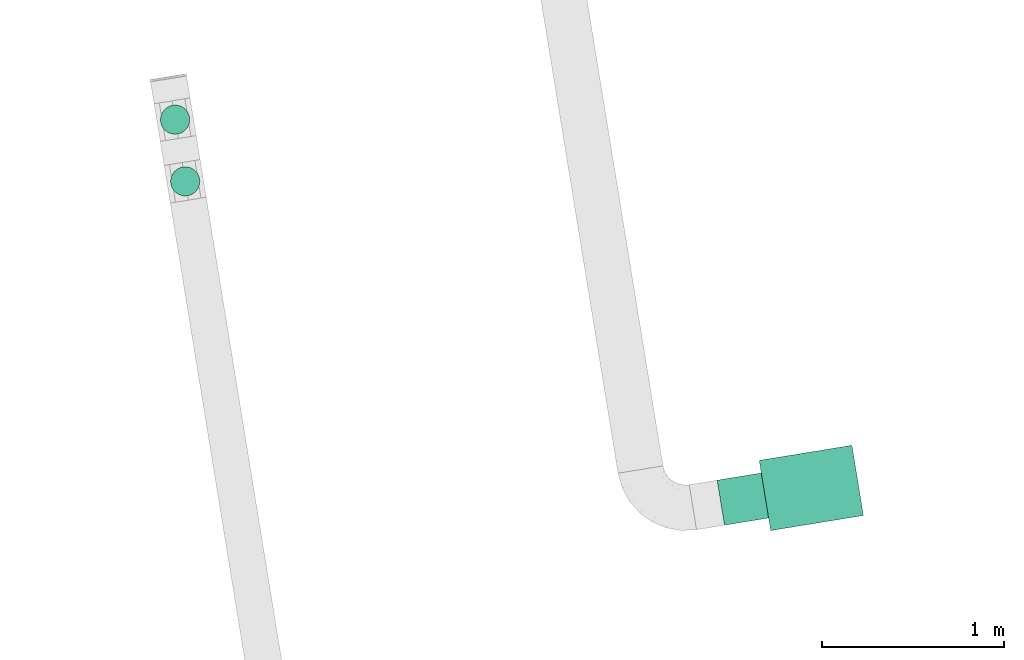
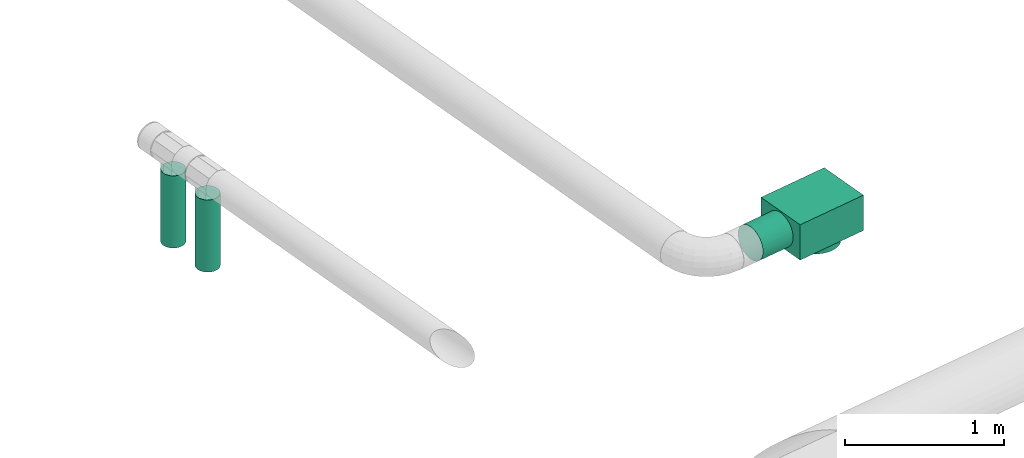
# One storey, part 13 of 19: 2 flow segments, 1 flow terminal.
"""IFC2X3 building model written with IfcOpenShell, lengths in millimetres."""

from ifc_helpers import new_model, entity, si_unit, converted_unit, derived_unit, direction, frame, origin, origin_with_axes, place, context, subcontext, project, spatial, faceted_brep, material, type_object, element, save


model = new_model("IFC2X3")

# Units and contexts
model_context = context("Model", 3, precision=0.01, world=origin(), true_north=direction((6.12323399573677e-17, 1.0)))
plan_context = context("Plan", 3, precision=1e-05, world=origin_with_axes())
body_context = subcontext(model_context, "Body", "Model", "MODEL_VIEW")
ifc_project = project(units=[converted_unit("PLANEANGLEUNIT", "DEGREE", entity("IfcPositiveLengthMeasure", 0.0174532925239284), si_unit("PLANEANGLEUNIT", "RADIAN"), dimensions=[0, 0, 0, 0, 0, 0, 0]), si_unit("AREAUNIT", "SQUARE_METRE"), si_unit("LENGTHUNIT", "METRE", prefix="MILLI"), si_unit("MASSUNIT", "GRAM", prefix="KILO"), si_unit("POWERUNIT", "WATT"), si_unit("PRESSUREUNIT", "PASCAL", prefix="KILO"), si_unit("FORCEUNIT", "NEWTON", prefix="KILO"), si_unit("ELECTRICVOLTAGEUNIT", "VOLT"), si_unit("ELECTRICCURRENTUNIT", "AMPERE"), si_unit("THERMODYNAMICTEMPERATUREUNIT", "DEGREE_CELSIUS"), si_unit("TIMEUNIT", "SECOND"), si_unit("VOLUMEUNIT", "CUBIC_METRE"), derived_unit("LINEARVELOCITYUNIT", [(si_unit("LENGTHUNIT", "METRE"), 1), (si_unit("TIMEUNIT", "SECOND"), -1)]), derived_unit("VOLUMETRICFLOWRATEUNIT", [(si_unit("VOLUMEUNIT", "CUBIC_METRE"), 1), (si_unit("TIMEUNIT", "SECOND"), -1)]), derived_unit("THERMALTRANSMITTANCEUNIT", [(si_unit("POWERUNIT", "WATT"), 1), (si_unit("THERMODYNAMICTEMPERATUREUNIT", "KELVIN"), -1), (si_unit("AREAUNIT", "SQUARE_METRE"), -1)]), derived_unit("SOUNDPRESSUREUNIT", [(si_unit("PRESSUREUNIT", "PASCAL"), 1)])], contexts=[model_context, plan_context])

# Site, building, storey
site_placement = place(None, frame((5.09380697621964e-08, 5.80416781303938e-08, 0.0), z_axis=(0.0, 0.0, 1.0), x_axis=(-0.160806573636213, 0.986985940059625, 0.0)))
site = spatial("IfcSite", under=ifc_project, at=site_placement, Name="Default", CompositionType="ELEMENT")
building_placement = place(site_placement, frame((0.0, 0.0, 0.0), z_axis=(0.0, 0.0, 1.0), x_axis=(1.0, -2.77555756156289e-17, 0.0)))
building = spatial("IfcBuilding", under=site, at=building_placement, Name="Bygning (endres i Project Information)", CompositionType="ELEMENT")
storey_placement = place(building_placement, frame((0.0, 0.0, 51360.0000000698), z_axis=(0.0, 0.0, 1.0), x_axis=(1.0, -2.77555756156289e-17, 0.0)))
storey = spatial("IfcBuildingStorey", under=building, at=storey_placement, Name="H01-Nivå D+0,36", CompositionType="ELEMENT", Elevation=51360.0000000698)

# Flow terminal
ifc_material = material(Name="3601.001 Tilluft")
air_terminal_type = type_object("IfcAirTerminalType", Name="Orion-LOV-TA+Luna:Orion-LOV-TA-315+Luna-250-315", PredefinedType="NOTDEFINED", material=ifc_material)
flow_terminal_placement = place(storey_placement, frame((997795.043332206, -394278.28836624, 2700.0), z_axis=(0.0, 0.0, 1.0), x_axis=(-2.77555756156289e-17, -1.0, 0.0)))
element("IfcFlowTerminal", 1, at=flow_terminal_placement, inside=storey, type_object=air_terminal_type, Name="Orion-LOV-TA+Luna:Orion-LOV-TA-315+Luna-250-315", ObjectType="Orion-LOV-TA+Luna:Orion-LOV-TA-315+Luna-250-315", context=body_context, shape_type="Brep", body=[
    faceted_brep([(-287.0, -195.0, 514.0), (-287.0, -195.0, 786.0), (228.0, -195.0, 786.0), (228.0, -195.0, 514.0), (228.0, 195.0, 786.0), (228.0, 195.0, 514.0), (-287.0, 195.0, 786.0), (-287.0, 195.0, 514.0)], [[[0, 1, 2, 3]], [[3, 2, 4, 5]], [[5, 4, 6, 7]], [[7, 6, 1, 0]], [[0, 3, 5, 7]], [[2, 1, 6, 4]]], orient=[[False], [False], [False], [False], [False], [False]]),
    faceted_brep([(-532.0, -21.7060222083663, 526.899030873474), (-287.0, -21.7060222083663, 526.899030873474), (-287.0, -8.45989944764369e-15, 525.0), (-532.0, -8.45989944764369e-15, 525.0), (-287.0, 21.7060222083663, 526.899030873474), (-532.0, 21.7060222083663, 526.899030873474), (-287.0, 42.7525179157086, 532.538422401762), (-532.0, 42.7525179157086, 532.538422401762), (-287.0, 62.5, 541.746824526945), (-532.0, 62.5, 541.746824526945), (-287.0, 80.3484512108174, 554.244444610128), (-532.0, 80.3484512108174, 554.244444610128), (-287.0, 95.7555553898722, 569.651548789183), (-532.0, 95.7555553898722, 569.651548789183), (-287.0, 108.253175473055, 587.5), (-532.0, 108.253175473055, 587.5), (-287.0, 117.461577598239, 607.247482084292), (-532.0, 117.461577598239, 607.247482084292), (-287.0, 123.100969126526, 628.293977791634), (-532.0, 123.100969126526, 628.293977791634), (-287.0, 125.0, 650.0), (-532.0, 125.0, 650.0), (-287.0, 123.100969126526, 671.706022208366), (-532.0, 123.100969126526, 671.706022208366), (-287.0, 117.461577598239, 692.752517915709), (-532.0, 117.461577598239, 692.752517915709), (-287.0, 108.253175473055, 712.5), (-532.0, 108.253175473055, 712.5), (-287.0, 95.7555553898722, 730.348451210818), (-532.0, 95.7555553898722, 730.348451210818), (-287.0, 80.3484512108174, 745.755555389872), (-532.0, 80.3484512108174, 745.755555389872), (-287.0, 62.5, 758.253175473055), (-532.0, 62.5, 758.253175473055), (-287.0, 42.7525179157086, 767.461577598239), (-532.0, 42.7525179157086, 767.461577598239), (-287.0, 21.7060222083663, 773.100969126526), (-532.0, 21.7060222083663, 773.100969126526), (-287.0, 6.84818554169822e-15, 775.0), (-532.0, 6.84818554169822e-15, 775.0), (-287.0, -21.7060222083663, 773.100969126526), (-532.0, -21.7060222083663, 773.100969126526), (-287.0, -42.7525179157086, 767.461577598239), (-532.0, -42.7525179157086, 767.461577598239), (-287.0, -62.5, 758.253175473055), (-532.0, -62.5, 758.253175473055), (-287.0, -80.3484512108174, 745.755555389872), (-532.0, -80.3484512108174, 745.755555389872), (-287.0, -95.7555553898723, 730.348451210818), (-532.0, -95.7555553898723, 730.348451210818), (-287.0, -108.253175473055, 712.5), (-532.0, -108.253175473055, 712.5), (-287.0, -117.461577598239, 692.752517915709), (-532.0, -117.461577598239, 692.752517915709), (-287.0, -123.100969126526, 671.706022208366), (-532.0, -123.100969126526, 671.706022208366), (-287.0, -125.0, 650.0), (-532.0, -125.0, 650.0), (-287.0, -123.100969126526, 628.293977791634), (-532.0, -123.100969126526, 628.293977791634), (-287.0, -117.461577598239, 607.247482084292), (-532.0, -117.461577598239, 607.247482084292), (-287.0, -108.253175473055, 587.5), (-532.0, -108.253175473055, 587.5), (-287.0, -95.7555553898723, 569.651548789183), (-532.0, -95.7555553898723, 569.651548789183), (-287.0, -80.3484512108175, 554.244444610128), (-532.0, -80.3484512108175, 554.244444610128), (-287.0, -62.5000000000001, 541.746824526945), (-532.0, -62.5000000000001, 541.746824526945), (-287.0, -42.7525179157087, 532.538422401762), (-532.0, -42.7525179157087, 532.538422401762)], [[[0, 1, 2, 3]], [[3, 2, 4, 5]], [[5, 4, 6, 7]], [[7, 6, 8, 9]], [[9, 8, 10, 11]], [[11, 10, 12, 13]], [[13, 12, 14, 15]], [[15, 14, 16, 17]], [[17, 16, 18, 19]], [[19, 18, 20, 21]], [[21, 20, 22, 23]], [[23, 22, 24, 25]], [[25, 24, 26, 27]], [[27, 26, 28, 29]], [[29, 28, 30, 31]], [[31, 30, 32, 33]], [[33, 32, 34, 35]], [[35, 34, 36, 37]], [[37, 36, 38, 39]], [[39, 38, 40, 41]], [[41, 40, 42, 43]], [[43, 42, 44, 45]], [[45, 44, 46, 47]], [[47, 46, 48, 49]], [[49, 48, 50, 51]], [[51, 50, 52, 53]], [[53, 52, 54, 55]], [[55, 54, 56, 57]], [[57, 56, 58, 59]], [[59, 58, 60, 61]], [[61, 60, 62, 63]], [[63, 62, 64, 65]], [[65, 64, 66, 67]], [[67, 66, 68, 69]], [[69, 68, 70, 71]], [[71, 70, 1, 0]], [[0, 3, 5, 7, 9, 11, 13, 15, 17, 19, 21, 23, 25, 27, 29, 31, 33, 35, 37, 39, 41, 43, 45, 47, 49, 51, 53, 55, 57, 59, 61, 63, 65, 67, 69, 71]], [[2, 1, 70, 68, 66, 64, 62, 60, 58, 56, 54, 52, 50, 48, 46, 44, 42, 40, 38, 36, 34, 32, 30, 28, 26, 24, 22, 20, 18, 16, 14, 12, 10, 8, 6, 4]]], orient=[[False], [False], [False], [False], [False], [False], [False], [False], [False], [False], [False], [False], [False], [False], [False], [False], [False], [False], [False], [False], [False], [False], [False], [False], [False], [False], [False], [False], [False], [False], [False], [False], [False], [False], [False], [False], [False], [False]]),
    faceted_brep([(0.0, 158.5, 439.999999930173), (27.5232361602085, 156.092028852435, 439.999999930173), (27.5232361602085, 156.092028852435, 514.0), (0.0, 158.5, 514.0), (-27.5232361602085, 156.092028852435, 439.999999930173), (-27.5232361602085, 156.092028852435, 514.0), (-54.2101927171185, 148.941280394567, 439.999999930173), (-54.2101927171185, 148.941280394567, 514.0), (-79.25, 137.265026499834, 439.999999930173), (-79.25, 137.265026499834, 514.0), (-101.881836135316, 121.418044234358, 439.999999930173), (-101.881836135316, 121.418044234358, 514.0), (-121.418044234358, 101.881836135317, 439.999999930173), (-121.418044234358, 101.881836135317, 514.0), (-137.265026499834, 79.2500000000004, 439.999999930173), (-137.265026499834, 79.2500000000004, 514.0), (-148.941280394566, 54.2101927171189, 439.999999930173), (-148.941280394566, 54.2101927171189, 514.0), (-156.092028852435, 27.5232361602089, 439.999999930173), (-156.092028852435, 27.5232361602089, 514.0), (-158.5, 4.2232883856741e-13, 439.999999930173), (-158.5, 4.2232883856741e-13, 514.0), (-156.092028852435, -27.523236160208, 439.999999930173), (-156.092028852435, -27.523236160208, 514.0), (-148.941280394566, -54.2101927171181, 439.999999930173), (-148.941280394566, -54.2101927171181, 514.0), (-137.265026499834, -79.2499999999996, 439.999999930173), (-137.265026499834, -79.2499999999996, 514.0), (-121.418044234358, -101.881836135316, 439.999999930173), (-121.418044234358, -101.881836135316, 514.0), (-101.881836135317, -121.418044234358, 439.999999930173), (-101.881836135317, -121.418044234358, 514.0), (-79.25, -137.265026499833, 439.999999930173), (-79.25, -137.265026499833, 514.0), (-54.2101927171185, -148.941280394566, 439.999999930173), (-54.2101927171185, -148.941280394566, 514.0), (-27.5232361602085, -156.092028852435, 439.999999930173), (-27.5232361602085, -156.092028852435, 514.0), (-1.94106517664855e-14, -158.5, 439.999999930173), (-1.94106517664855e-14, -158.5, 514.0), (27.5232361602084, -156.092028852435, 439.999999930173), (27.5232361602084, -156.092028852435, 514.0), (54.2101927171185, -148.941280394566, 439.999999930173), (54.2101927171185, -148.941280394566, 514.0), (79.25, -137.265026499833, 439.999999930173), (79.25, -137.265026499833, 514.0), (101.881836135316, -121.418044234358, 439.999999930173), (101.881836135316, -121.418044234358, 514.0), (121.418044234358, -101.881836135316, 439.999999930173), (121.418044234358, -101.881836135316, 514.0), (137.265026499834, -79.2499999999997, 439.999999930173), (137.265026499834, -79.2499999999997, 514.0), (148.941280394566, -54.2101927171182, 439.999999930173), (148.941280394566, -54.2101927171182, 514.0), (156.092028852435, -27.5232361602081, 439.999999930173), (156.092028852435, -27.523236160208, 514.0), (158.5, 3.83507535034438e-13, 439.999999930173), (158.5, 3.83507535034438e-13, 514.0), (156.092028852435, 27.5232361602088, 439.999999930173), (156.092028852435, 27.5232361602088, 514.0), (148.941280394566, 54.2101927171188, 439.999999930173), (148.941280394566, 54.2101927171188, 514.0), (137.265026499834, 79.2500000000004, 439.999999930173), (137.265026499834, 79.2500000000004, 514.0), (121.418044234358, 101.881836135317, 439.999999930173), (121.418044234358, 101.881836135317, 514.0), (101.881836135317, 121.418044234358, 439.999999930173), (101.881836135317, 121.418044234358, 514.0), (79.2500000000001, 137.265026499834, 439.999999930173), (79.2500000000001, 137.265026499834, 514.0), (54.2101927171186, 148.941280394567, 439.999999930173), (54.2101927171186, 148.941280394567, 514.0)], [[[0, 1, 2, 3]], [[4, 0, 3, 5]], [[6, 4, 5, 7]], [[8, 6, 7, 9]], [[10, 8, 9, 11]], [[12, 10, 11, 13]], [[14, 12, 13, 15]], [[16, 14, 15, 17]], [[18, 16, 17, 19]], [[20, 18, 19, 21]], [[22, 20, 21, 23]], [[24, 22, 23, 25]], [[26, 24, 25, 27]], [[28, 26, 27, 29]], [[30, 28, 29, 31]], [[32, 30, 31, 33]], [[34, 32, 33, 35]], [[36, 34, 35, 37]], [[38, 36, 37, 39]], [[40, 38, 39, 41]], [[42, 40, 41, 43]], [[44, 42, 43, 45]], [[46, 44, 45, 47]], [[48, 46, 47, 49]], [[50, 48, 49, 51]], [[52, 50, 51, 53]], [[54, 52, 53, 55]], [[56, 54, 55, 57]], [[58, 56, 57, 59]], [[60, 58, 59, 61]], [[62, 60, 61, 63]], [[64, 62, 63, 65]], [[66, 64, 65, 67]], [[68, 66, 67, 69]], [[70, 68, 69, 71]], [[1, 70, 71, 2]], [[3, 2, 71, 69, 67, 65, 63, 61, 59, 57, 55, 53, 51, 49, 47, 45, 43, 41, 39, 37, 35, 33, 31, 29, 27, 25, 23, 21, 19, 17, 15, 13, 11, 9, 7, 5]], [[4, 6, 8, 10, 12, 14, 16, 18, 20, 22, 24, 26, 28, 30, 32, 34, 36, 38, 40, 42, 44, 46, 48, 50, 52, 54, 56, 58, 60, 62, 64, 66, 68, 70, 1, 0]]], orient=[[False], [False], [False], [False], [False], [False], [False], [False], [False], [False], [False], [False], [False], [False], [False], [False], [False], [False], [False], [False], [False], [False], [False], [False], [False], [False], [False], [False], [False], [False], [False], [False], [False], [False], [False], [False], [False], [False]]),
])

# Flow segments
duct_segment_type = type_object("IfcDuctSegmentType", Name="Round Duct:Sirkulær kanal", PredefinedType="NOTDEFINED", material=ifc_material)
flow_segment_1_placement = place(storey_placement, frame((0.0, 0.0, 0.0), z_axis=(0.0, 0.0, 1.0), x_axis=(1.0, -2.77555756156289e-17, 0.0)))
element("IfcFlowSegment", 2, at=flow_segment_1_placement, inside=storey, type_object=duct_segment_type, Name="Round Duct:Sirkulær kanal", ObjectType="Round Duct:Sirkulær kanal", context=body_context, shape_type="Brep", body=[
    faceted_brep([(1000004.89913365, -391212.731779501, 3139.99999993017), (999991.007279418, -391211.51639974, 3139.99999993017), (999991.007279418, -391211.51639974, 3695.00000015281), (1000004.89913365, -391212.731779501, 3695.00000015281), (1000018.79098789, -391211.51639974, 3139.99999993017), (1000018.79098789, -391211.51639974, 3695.00000015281), (1000032.26074516, -391207.907189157, 3139.99999993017), (1000032.26074516, -391207.907189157, 3695.00000015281), (1000044.89913371, -391202.013811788, 3139.99999993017), (1000044.89913371, -391202.013811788, 3695.00000015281), (1000056.32214251, -391194.015334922, 3139.99999993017), (1000056.32214251, -391194.015334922, 3695.00000015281), (1000066.1826892, -391184.154788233, 3139.99999993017), (1000066.1826892, -391184.154788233, 3695.00000015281), (1000074.18116606, -391172.73177944, 3139.99999993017), (1000074.18116606, -391172.73177944, 3695.00000015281), (1000080.07454343, -391160.093390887, 3139.99999993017), (1000080.07454343, -391160.093390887, 3695.00000015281), (1000083.68375401, -391146.623633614, 3139.99999993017), (1000083.68375401, -391146.623633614, 3695.00000015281), (1000084.89913377, -391132.73177938, 3139.99999993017), (1000084.89913377, -391132.73177938, 3695.00000015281), (1000083.68375401, -391118.839925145, 3139.99999993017), (1000083.68375401, -391118.839925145, 3695.00000015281), (1000080.07454343, -391105.370167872, 3139.99999993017), (1000080.07454343, -391105.370167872, 3695.00000015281), (1000074.18116606, -391092.731779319, 3139.99999993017), (1000074.18116606, -391092.731779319, 3695.00000015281), (1000066.1826892, -391081.308770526, 3139.99999993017), (1000066.1826892, -391081.308770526, 3695.00000015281), (1000056.32214251, -391071.448223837, 3139.99999993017), (1000056.32214251, -391071.448223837, 3695.00000015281), (1000044.89913371, -391063.449746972, 3139.99999993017), (1000044.89913371, -391063.449746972, 3695.00000015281), (1000032.26074516, -391057.556369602, 3139.99999993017), (1000032.26074516, -391057.556369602, 3695.00000015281), (1000018.79098789, -391053.947159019, 3139.99999993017), (1000018.79098789, -391053.947159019, 3695.00000015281), (1000004.89913365, -391052.731779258, 3139.99999993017), (1000004.89913365, -391052.731779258, 3695.00000015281), (999991.007279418, -391053.947159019, 3139.99999993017), (999991.007279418, -391053.947159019, 3695.00000015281), (999977.537522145, -391057.556369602, 3139.99999993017), (999977.537522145, -391057.556369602, 3695.00000015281), (999964.899133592, -391063.449746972, 3139.99999993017), (999964.899133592, -391063.449746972, 3695.00000015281), (999953.4761248, -391071.448223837, 3139.99999993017), (999953.4761248, -391071.448223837, 3695.00000015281), (999943.61557811, -391081.308770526, 3139.99999993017), (999943.61557811, -391081.308770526, 3695.00000015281), (999935.617101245, -391092.731779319, 3139.99999993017), (999935.617101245, -391092.731779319, 3695.00000015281), (999929.723723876, -391105.370167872, 3139.99999993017), (999929.723723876, -391105.370167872, 3695.00000015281), (999926.114513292, -391118.839925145, 3139.99999993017), (999926.114513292, -391118.839925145, 3695.00000015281), (999924.899133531, -391132.73177938, 3139.99999993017), (999924.899133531, -391132.73177938, 3695.00000015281), (999926.114513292, -391146.623633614, 3139.99999993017), (999926.114513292, -391146.623633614, 3695.00000015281), (999929.723723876, -391160.093390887, 3139.99999993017), (999929.723723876, -391160.093390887, 3695.00000015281), (999935.617101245, -391172.73177944, 3139.99999993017), (999935.617101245, -391172.73177944, 3695.00000015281), (999943.61557811, -391184.154788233, 3139.99999993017), (999943.61557811, -391184.154788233, 3695.00000015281), (999953.4761248, -391194.015334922, 3139.99999993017), (999953.4761248, -391194.015334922, 3695.00000015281), (999964.899133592, -391202.013811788, 3139.99999993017), (999964.899133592, -391202.013811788, 3695.00000015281), (999977.537522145, -391207.907189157, 3139.99999993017), (999977.537522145, -391207.907189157, 3695.00000015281)], [[[0, 1, 2, 3]], [[4, 0, 3, 5]], [[6, 4, 5, 7]], [[8, 6, 7, 9]], [[10, 8, 9, 11]], [[12, 10, 11, 13]], [[14, 12, 13, 15]], [[16, 14, 15, 17]], [[18, 16, 17, 19]], [[20, 18, 19, 21]], [[22, 20, 21, 23]], [[24, 22, 23, 25]], [[26, 24, 25, 27]], [[28, 26, 27, 29]], [[30, 28, 29, 31]], [[32, 30, 31, 33]], [[34, 32, 33, 35]], [[36, 34, 35, 37]], [[38, 36, 37, 39]], [[40, 38, 39, 41]], [[42, 40, 41, 43]], [[44, 42, 43, 45]], [[46, 44, 45, 47]], [[48, 46, 47, 49]], [[50, 48, 49, 51]], [[52, 50, 51, 53]], [[54, 52, 53, 55]], [[56, 54, 55, 57]], [[58, 56, 57, 59]], [[60, 58, 59, 61]], [[62, 60, 61, 63]], [[64, 62, 63, 65]], [[66, 64, 65, 67]], [[68, 66, 67, 69]], [[70, 68, 69, 71]], [[1, 70, 71, 2]], [[3, 2, 71, 69, 67, 65, 63, 61, 59, 57, 55, 53, 51, 49, 47, 45, 43, 41, 39, 37, 35, 33, 31, 29, 27, 25, 23, 21, 19, 17, 15, 13, 11, 9, 7, 5]], [[4, 6, 8, 10, 12, 14, 16, 18, 20, 22, 24, 26, 28, 30, 32, 34, 36, 38, 40, 42, 44, 46, 48, 50, 52, 54, 56, 58, 60, 62, 64, 66, 68, 70, 1, 0]]], orient=[[False], [False], [False], [False], [False], [False], [False], [False], [False], [False], [False], [False], [False], [False], [False], [False], [False], [False], [False], [False], [False], [False], [False], [False], [False], [False], [False], [False], [False], [False], [False], [False], [False], [False], [False], [False], [False], [False]]),
])
flow_segment_2_placement = place(storey_placement, frame((0.0, 0.0, 0.0), z_axis=(0.0, 0.0, 1.0), x_axis=(1.0, -2.77555756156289e-17, 0.0)))
element("IfcFlowSegment", 3, at=flow_segment_2_placement, inside=storey, type_object=duct_segment_type, Name="Round Duct:Sirkulær kanal", ObjectType="Round Duct:Sirkulær kanal", context=body_context, shape_type="Brep", body=[
    faceted_brep([(1000347.1737039, -391212.731779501, 3139.99999993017), (1000333.28184966, -391211.51639974, 3139.99999993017), (1000333.28184966, -391211.51639974, 3695.00000015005), (1000347.1737039, -391212.731779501, 3695.00000015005), (1000361.06555813, -391211.51639974, 3139.99999993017), (1000361.06555813, -391211.51639974, 3695.00000015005), (1000374.53531541, -391207.907189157, 3139.99999993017), (1000374.53531541, -391207.907189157, 3695.00000015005), (1000387.17370396, -391202.013811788, 3139.99999993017), (1000387.17370396, -391202.013811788, 3695.00000015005), (1000398.59671275, -391194.015334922, 3139.99999993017), (1000398.59671275, -391194.015334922, 3695.00000015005), (1000408.45725944, -391184.154788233, 3139.99999993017), (1000408.45725944, -391184.154788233, 3695.00000015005), (1000416.45573631, -391172.73177944, 3139.99999993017), (1000416.45573631, -391172.73177944, 3695.00000015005), (1000422.34911368, -391160.093390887, 3139.99999993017), (1000422.34911368, -391160.093390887, 3695.00000015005), (1000425.95832426, -391146.623633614, 3139.99999993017), (1000425.95832426, -391146.623633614, 3695.00000015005), (1000427.17370402, -391132.73177938, 3139.99999993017), (1000427.17370402, -391132.73177938, 3695.00000015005), (1000425.95832426, -391118.839925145, 3139.99999993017), (1000425.95832426, -391118.839925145, 3695.00000015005), (1000422.34911368, -391105.370167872, 3139.99999993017), (1000422.34911368, -391105.370167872, 3695.00000015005), (1000416.45573631, -391092.731779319, 3139.99999993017), (1000416.45573631, -391092.731779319, 3695.00000015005), (1000408.45725944, -391081.308770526, 3139.99999993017), (1000408.45725944, -391081.308770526, 3695.00000015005), (1000398.59671275, -391071.448223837, 3139.99999993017), (1000398.59671275, -391071.448223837, 3695.00000015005), (1000387.17370396, -391063.449746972, 3139.99999993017), (1000387.17370396, -391063.449746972, 3695.00000015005), (1000374.53531541, -391057.556369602, 3139.99999993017), (1000374.53531541, -391057.556369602, 3695.00000015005), (1000361.06555813, -391053.947159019, 3139.99999993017), (1000361.06555813, -391053.947159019, 3695.00000015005), (1000347.1737039, -391052.731779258, 3139.99999993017), (1000347.1737039, -391052.731779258, 3695.00000015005), (1000333.28184966, -391053.947159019, 3139.99999993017), (1000333.28184966, -391053.947159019, 3695.00000015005), (1000319.81209239, -391057.556369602, 3139.99999993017), (1000319.81209239, -391057.556369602, 3695.00000015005), (1000307.17370384, -391063.449746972, 3139.99999993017), (1000307.17370384, -391063.449746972, 3695.00000015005), (1000295.75069505, -391071.448223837, 3139.99999993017), (1000295.75069505, -391071.448223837, 3695.00000015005), (1000285.89014836, -391081.308770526, 3139.99999993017), (1000285.89014836, -391081.308770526, 3695.00000015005), (1000277.89167149, -391092.731779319, 3139.99999993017), (1000277.89167149, -391092.731779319, 3695.00000015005), (1000271.99829412, -391105.370167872, 3139.99999993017), (1000271.99829412, -391105.370167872, 3695.00000015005), (1000268.38908354, -391118.839925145, 3139.99999993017), (1000268.38908354, -391118.839925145, 3695.00000015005), (1000267.17370378, -391132.73177938, 3139.99999993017), (1000267.17370378, -391132.73177938, 3695.00000015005), (1000268.38908354, -391146.623633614, 3139.99999993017), (1000268.38908354, -391146.623633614, 3695.00000015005), (1000271.99829412, -391160.093390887, 3139.99999993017), (1000271.99829412, -391160.093390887, 3695.00000015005), (1000277.89167149, -391172.73177944, 3139.99999993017), (1000277.89167149, -391172.73177944, 3695.00000015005), (1000285.89014836, -391184.154788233, 3139.99999993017), (1000285.89014836, -391184.154788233, 3695.00000015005), (1000295.75069505, -391194.015334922, 3139.99999993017), (1000295.75069505, -391194.015334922, 3695.00000015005), (1000307.17370384, -391202.013811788, 3139.99999993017), (1000307.17370384, -391202.013811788, 3695.00000015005), (1000319.81209239, -391207.907189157, 3139.99999993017), (1000319.81209239, -391207.907189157, 3695.00000015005)], [[[0, 1, 2, 3]], [[4, 0, 3, 5]], [[6, 4, 5, 7]], [[8, 6, 7, 9]], [[10, 8, 9, 11]], [[12, 10, 11, 13]], [[14, 12, 13, 15]], [[16, 14, 15, 17]], [[18, 16, 17, 19]], [[20, 18, 19, 21]], [[22, 20, 21, 23]], [[24, 22, 23, 25]], [[26, 24, 25, 27]], [[28, 26, 27, 29]], [[30, 28, 29, 31]], [[32, 30, 31, 33]], [[34, 32, 33, 35]], [[36, 34, 35, 37]], [[38, 36, 37, 39]], [[40, 38, 39, 41]], [[42, 40, 41, 43]], [[44, 42, 43, 45]], [[46, 44, 45, 47]], [[48, 46, 47, 49]], [[50, 48, 49, 51]], [[52, 50, 51, 53]], [[54, 52, 53, 55]], [[56, 54, 55, 57]], [[58, 56, 57, 59]], [[60, 58, 59, 61]], [[62, 60, 61, 63]], [[64, 62, 63, 65]], [[66, 64, 65, 67]], [[68, 66, 67, 69]], [[70, 68, 69, 71]], [[1, 70, 71, 2]], [[3, 2, 71, 69, 67, 65, 63, 61, 59, 57, 55, 53, 51, 49, 47, 45, 43, 41, 39, 37, 35, 33, 31, 29, 27, 25, 23, 21, 19, 17, 15, 13, 11, 9, 7, 5]], [[4, 6, 8, 10, 12, 14, 16, 18, 20, 22, 24, 26, 28, 30, 32, 34, 36, 38, 40, 42, 44, 46, 48, 50, 52, 54, 56, 58, 60, 62, 64, 66, 68, 70, 1, 0]]], orient=[[False], [False], [False], [False], [False], [False], [False], [False], [False], [False], [False], [False], [False], [False], [False], [False], [False], [False], [False], [False], [False], [False], [False], [False], [False], [False], [False], [False], [False], [False], [False], [False], [False], [False], [False], [False], [False], [False]]),
])

save(model, "model.ifc")
